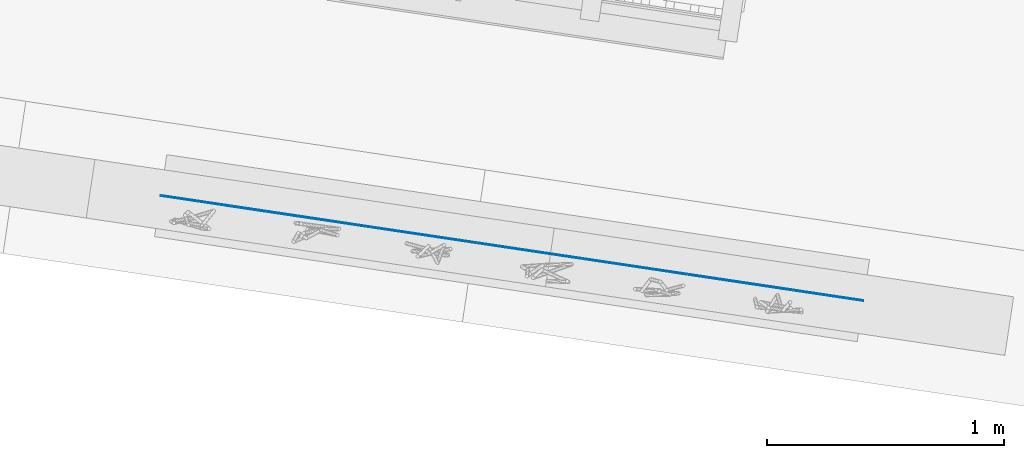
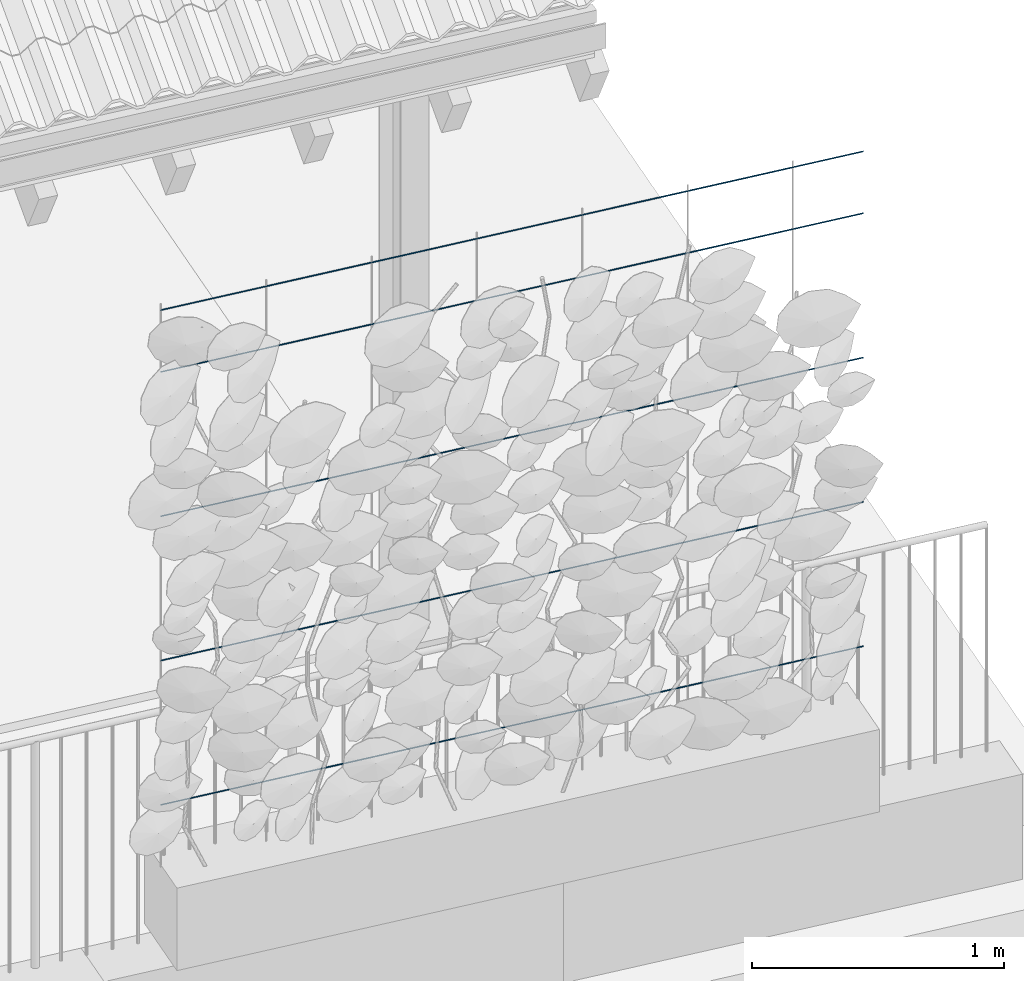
# One storey, part 95 of 128: 5 members, 1 element without a shape of its own.
"""IFC4 building model written with IfcOpenShell, lengths in metres."""

from ifc_helpers import new_model, si_unit, direction, frame, origin_with_axes, place, context, subcontext, project, spatial, circle, extrude, material, material_profile, profile_set, profile_usage, type_object, element, aggregate, save


model = new_model("IFC4")

# Units and contexts
model_context = context("Model", 3, precision=1e-05, world=origin_with_axes(), true_north=direction((0.0, 1.0)))
body_context = subcontext(model_context, "Body", "Model", "MODEL_VIEW")
ifc_project = project(units=[si_unit("VOLUMEUNIT", "CUBIC_METRE"), si_unit("LENGTHUNIT", "METRE"), si_unit("AREAUNIT", "SQUARE_METRE")], contexts=[model_context])

# Site, building, storey
site_placement = place(None, origin_with_axes())
site = spatial("IfcSite", under=ifc_project, at=site_placement, Name="Lares · Rua das Mercês · artigo 4771")
building_placement = place(site_placement, frame((15.0, 9.7, 13.9), z_axis=(0.0, 0.0, 1.0), x_axis=(0.989015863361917, -0.147809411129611, 0.0)))
building = spatial("IfcBuilding", under=site, at=building_placement, Name="Casa Sobreposta")
storey_placement = place(building_placement, origin_with_axes())
storey = spatial("IfcBuildingStorey", under=building, at=storey_placement, Name="00 · Habitação e estacionamento", Elevation=13.9)

# Assembly, members
assembly_placement = place(storey_placement, origin_with_axes())
assembly = element("IfcElementAssembly", 1, at=assembly_placement, inside=storey, Name="Fachada sul e pátio · estrutura e trepadeiras", ObjectType="LIVING_SHADE_TRELLIS", PredefinedType="USERDEFINED")
ifc_material = material(Name="Aço galvanizado / Stahl verzinkt", Category="steel")
ifc_material_profile = material_profile(ifc_material, circle(Radius=0.002))
ifc_profile_set = profile_set([ifc_material_profile], Name="D0.004")
ifc_profile_usage_1 = profile_usage(ifc_profile_set)
member_type = type_object("IfcMemberType", Name="D0.004 / galvanized", PredefinedType="NOTDEFINED", material=ifc_profile_set)
member_1_placement = place(assembly_placement, frame((28.5, -1.61, 0.65), z_axis=(1.0, 0.0, 0.0), x_axis=(0.0, -1.0, 0.0)))
member_1 = element("IfcMember", 2, at=member_1_placement, type_object=member_type, material=ifc_profile_usage_1, Name="Trepadeiras · fio horizontal", context=body_context, shape_type="SweptSolid", body=[
    extrude(circle(Radius=0.002), origin_with_axes(), (0.0, 0.0, 1.0), 3.0),
])
ifc_profile_usage_2 = profile_usage(ifc_profile_set)
member_2_placement = place(assembly_placement, frame((28.5, -1.61, 1.35), z_axis=(1.0, 0.0, 0.0), x_axis=(0.0, -1.0, 0.0)))
member_2 = element("IfcMember", 3, at=member_2_placement, type_object=member_type, material=ifc_profile_usage_2, Name="Trepadeiras · fio horizontal", context=body_context, shape_type="SweptSolid", body=[
    extrude(circle(Radius=0.002), origin_with_axes(), (0.0, 0.0, 1.0), 3.0),
])
ifc_profile_usage_3 = profile_usage(ifc_profile_set)
member_3_placement = place(assembly_placement, frame((28.5, -1.61, 2.05), z_axis=(1.0, 0.0, 0.0), x_axis=(0.0, -1.0, 0.0)))
member_3 = element("IfcMember", 4, at=member_3_placement, type_object=member_type, material=ifc_profile_usage_3, Name="Trepadeiras · fio horizontal", context=body_context, shape_type="SweptSolid", body=[
    extrude(circle(Radius=0.002), origin_with_axes(), (0.0, 0.0, 1.0), 3.0),
])
ifc_profile_usage_4 = profile_usage(ifc_profile_set)
member_4_placement = place(assembly_placement, frame((28.5, -1.61, 2.75), z_axis=(1.0, 0.0, 0.0), x_axis=(0.0, -1.0, 0.0)))
member_4 = element("IfcMember", 5, at=member_4_placement, type_object=member_type, material=ifc_profile_usage_4, Name="Trepadeiras · fio horizontal", context=body_context, shape_type="SweptSolid", body=[
    extrude(circle(Radius=0.002), origin_with_axes(), (0.0, 0.0, 1.0), 3.0),
])
ifc_profile_usage_5 = profile_usage(ifc_profile_set)
member_5_placement = place(assembly_placement, frame((28.5, -1.61, 3.05), z_axis=(1.0, 0.0, 0.0), x_axis=(0.0, -1.0, 0.0)))
member_5 = element("IfcMember", 6, at=member_5_placement, type_object=member_type, material=ifc_profile_usage_5, Name="Trepadeiras · fio horizontal", context=body_context, shape_type="SweptSolid", body=[
    extrude(circle(Radius=0.002), origin_with_axes(), (0.0, 0.0, 1.0), 3.0),
])
aggregate(assembly, [member_1, member_2, member_3, member_4, member_5])

save(model, "model.ifc")
